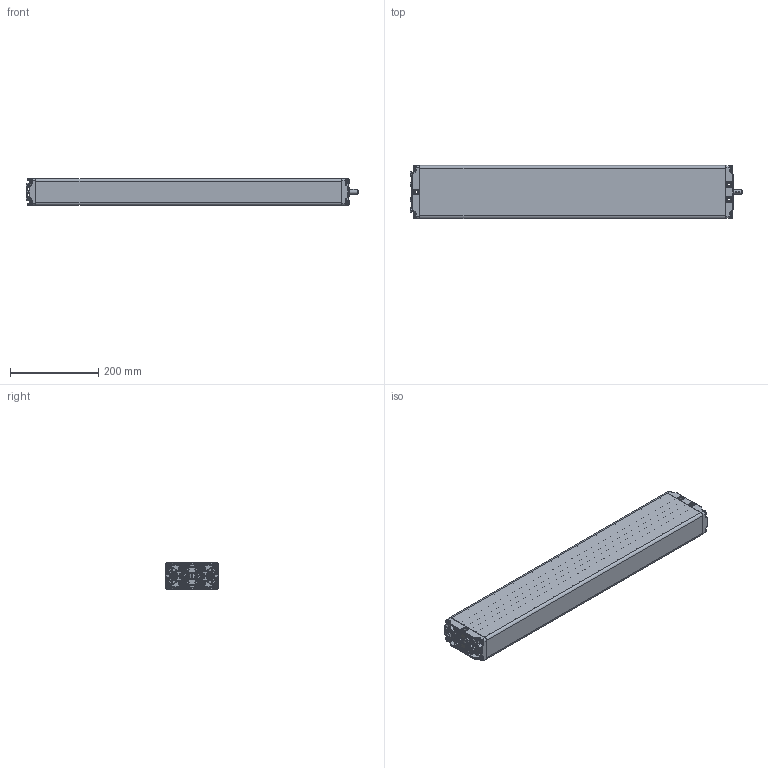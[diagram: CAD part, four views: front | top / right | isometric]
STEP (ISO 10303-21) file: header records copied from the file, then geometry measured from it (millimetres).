
FILE_DESCRIPTION(/* description */ ('Unknown'),/* implementation_level */ '2;1');
FILE_NAME(/* name */ '102.00156 Pumpe PB 6430 W',/* time_stamp */ '2016-09-02T15:21:29+02:00',/* author */ ('Unknown'),/* organization */ ('Unknown'),/* preprocessor_version */ 'ST-DEVELOPER v16.7',/* originating_system */ 'DEX',/* authorisation */ $);
FILE_SCHEMA (('AUTOMOTIVE_DESIGN {1 0 10303 214 3 1 1}'));
Products named in the file (14): 102.00156; 115.00025; 125.00044; 115.00007; 142.00021; 125.00021; 142.00013; 125.00145; 115.00140; 126.00006; 122.00040; 119.00045; 126.00005; 142.00057
Assembly tree (25 placements, depth 3):
  102.00156
    115.00025  x6
      125.00044
      115.00007
      142.00021
      125.00021
    142.00013  x8
    125.00145
    115.00140
      126.00006
      122.00040
    119.00045
    126.00005
    142.00057
Bounding box: 751.47 x 120 x 60.3 mm (x, y, z)
Volume: 904180.6 mm3; surface area: 623709.5 mm2
Topology: 32 solids, 32 shells, 2594 faces, 6141 edges, 3544 vertices
Faces by surface type: bspline 704, plane 703, cylinder 576, cone 375, torus 176, sphere 60
Full cylindrical faces by diameter (mm): 3.5 x6, 4.1 x6, 4.2 x6, 5 x8, 6.917 x12, 8 x13, 9.8 x8, 10 x3, 10.4 x7, 13.9 x12, 14 x1, 17.3 x6, 18 x1, 19 x1
Entity records: 97550 total; most frequent: CARTESIAN_POINT 54065, ORIENTED_EDGE 8234, DIRECTION 6555, EDGE_CURVE 4117, AXIS2_PLACEMENT_3D 2635, VERTEX_POINT 2519, FACE_BOUND 1980, EDGE_LOOP 1979
